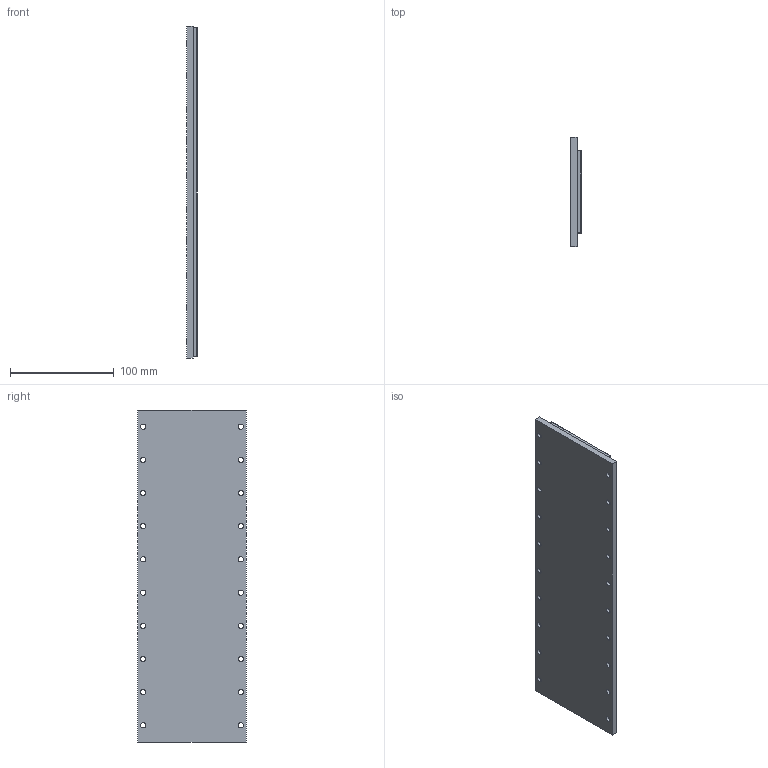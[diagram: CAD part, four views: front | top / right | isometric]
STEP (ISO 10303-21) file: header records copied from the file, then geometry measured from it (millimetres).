
FILE_DESCRIPTION (( 'STEP AP214' ), '1' );
FILE_NAME ('PIXM080-TL320-NC.STEP', '2020-07-30T02:06:38', ( '' ), ( '' ), 'SwSTEP 2.0', 'SolidWorks 2016', '' );
FILE_SCHEMA (( 'AUTOMOTIVE_DESIGN' ));
Length unit declared in the file: inch
Products named in the file (3): 001SM080LXXX01_TL320; PIXM080-TL320-NC; 001SM080000001-CUSTOMER_TL320
Assembly tree (2 placements, depth 2):
  PIXM080-TL320-NC
    001SM080LXXX01_TL320
    001SM080000001-CUSTOMER_TL320
Bounding box: 10 x 105 x 320 mm (x, y, z)
Volume: 298530.6 mm3; surface area: 127698.4 mm2
Topology: 2 solids, 2 shells, 143 faces, 338 edges, 212 vertices
Faces by surface type: cylinder 92, plane 43, bspline 8
Entity records: 6267 total; most frequent: CARTESIAN_POINT 810, DIRECTION 794, ORIENTED_EDGE 660, EDGE_CURVE 330, AXIS2_PLACEMENT_3D 324, VERTEX_POINT 212, EDGE_LOOP 204, CIRCLE 184
